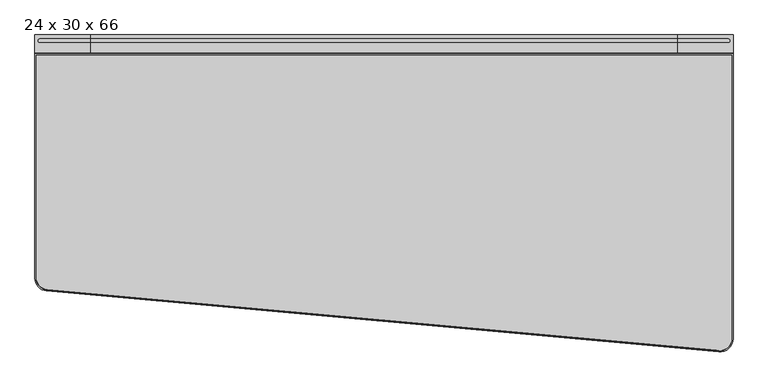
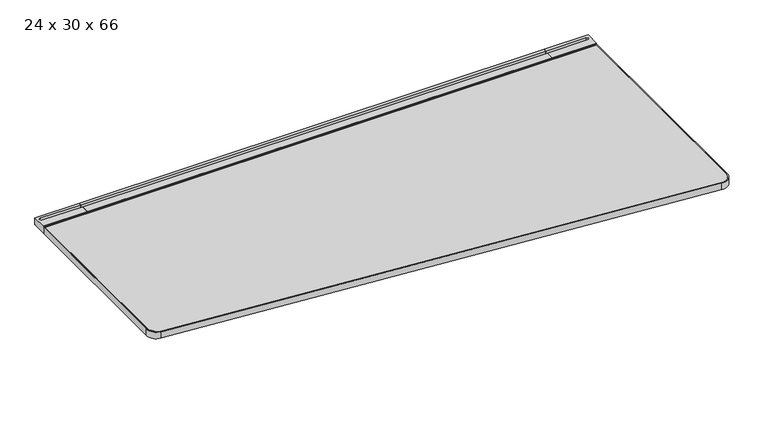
"""IFC4 building model written with IfcOpenShell, lengths in millimetres: furniture geometry, Steelcase - C Scape - Desking - Right Hand Tapered : 24 x 30 x 66."""

from ifc_helpers import new_model, si_unit, point, frame, frame_2d, origin, place, context, project, spatial, polyline, circle_curve, trimmed, segment, composite_curve, outline, extrude, faceted_brep, source, transform, mapped, element, save
from ifc_brep_helpers import plane_surface, cylinder_surface, revolved_surface, advanced_brep


def furniture_24_x_30_x_66_e956ec1d(model_context):
    return source(origin(), model_context, "Body", "SolidModel", [
        advanced_brep(
        [(1541.7927124, -45.3135132, 703.3768), (1541.7927124, -45.3135132, 722.4268341), (1541.7927124, -42.7750923, 722.4268341), (1541.7927124, -42.7750923, 725.932), (1541.7927124, -19.3290527, 725.932), (1541.7927124, -19.3290527, 713.486), (1541.7927124, -8.5111084, 713.486), (1541.7927124, -8.5111084, 725.932), (1541.7927124, 0.0, 725.932), (1541.7927124, 0.0, 705.1038636), (1541.7927124, -3.2278472, 705.1038636), (1541.7927124, -4.0331902, 703.3768), (1674.8125, -45.3135132, 703.3768), (1674.8125, -4.0331902, 703.3768), (1674.8125, -3.2278472, 705.1038636), (1674.8125, 0.0, 705.1038636), (1674.8125, 0.0, 725.932), (1674.8125, -42.7750923, 725.932), (1674.8125, -42.7750923, 722.4268341), (1674.8125, -45.3135132, 722.4268341), (1663.0504272, -8.5111084, 725.932), (1663.0504272, -19.3290527, 725.932), (1663.0504272, -19.3290527, 713.486), (1663.0504272, -8.5111084, 713.486)],
        [
            (0, 1),
            (1, 2),
            (2, 3),
            (3, 4),
            (4, 5),
            (5, 6),
            (6, 7),
            (7, 8),
            (8, 9),
            (9, 10),
            (10, 11),
            (11, 0),
            (12, 13),
            (13, 14),
            (14, 15),
            (15, 16),
            (16, 17),
            (17, 18),
            (18, 19),
            (19, 12),
            (11, 13),
            (12, 0),
            (10, 14),
            (9, 15),
            (8, 16),
            (7, 20),
            (20, 21, circle_curve(frame((1663.0504272, -13.9200806, 725.932), z_axis=(0.0, 0.0, -1.0), x_axis=(-1.0, 0.0, 0.0)), 5.4089722)),
            (21, 4),
            (3, 17),
            (2, 18),
            (1, 19),
            (5, 22),
            (22, 23, circle_curve(frame((1663.0504272, -13.9200806, 713.486), z_axis=(0.0, 0.0, 1.0), x_axis=(-1.0, 0.0, 0.0)), 5.4089722)),
            (23, 6),
            (23, 20),
            (22, 21),
        ],
        [
            plane_surface(frame((1541.7927124, -45.3135132, 703.3768), z_axis=(-1.0, 0.0, 0.0), x_axis=(0.0, 1.0, 0.0))),
            plane_surface(frame((1674.8125, -45.3135132, 703.3768), z_axis=(1.0, 0.0, 0.0), x_axis=(0.0, -1.0, 0.0))),
            plane_surface(frame((1541.7927124, -45.3135132, 703.3768), z_axis=(0.0, 0.0, -1.0), x_axis=(1.0, 0.0, 0.0))),
            plane_surface(frame((1541.7927124, -4.0331902, 703.3768), z_axis=(0.0, 0.9063077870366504, -0.4226182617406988), x_axis=(1.0, 0.0, 0.0))),
            plane_surface(frame((1541.7927124, -3.2278472, 705.1038636), z_axis=(0.0, 0.0, -1.0), x_axis=(1.0, 0.0, 0.0))),
            plane_surface(frame((1541.7927124, 0.0, 705.1038636), z_axis=(0.0, 1.0, 0.0), x_axis=(1.0, 0.0, 0.0))),
            plane_surface(frame((1541.7927124, 0.0, 725.932), z_axis=(0.0, 0.0, 1.0), x_axis=(1.0, 0.0, 0.0))),
            plane_surface(frame((1541.7927124, -42.7750923, 725.932), z_axis=(0.0, -1.0, 0.0), x_axis=(1.0, 0.0, 0.0))),
            plane_surface(frame((1541.7927124, -42.7750923, 722.4268341), z_axis=(0.0, 0.0, 1.0), x_axis=(1.0, 0.0, 0.0))),
            plane_surface(frame((1541.7927124, -45.3135132, 722.4268341), z_axis=(0.0, -1.0, 0.0), x_axis=(1.0, 0.0, 0.0))),
            plane_surface(frame((1663.0504272, -8.5111084, 713.486), z_axis=(0.0, 0.0, 1.0), x_axis=(-1.0, 0.0, 0.0))),
            plane_surface(frame((1541.7927124, -8.5111084, 731.2180541), z_axis=(0.0, -1.0, 0.0), x_axis=(0.0, 0.0, -1.0))),
            revolved_surface(polyline([(1657.641455, -13.9200806, 725.932), (1657.641455, -13.9200806, 713.486)]), (1663.0504272, -13.9200806, 713.486), (0.0, 0.0, 1.0)),
            plane_surface(frame((1663.0504272, -19.3290527, 731.2180541), z_axis=(0.0, 1.0, 0.0), x_axis=(0.0, 0.0, -1.0))),
        ],
        [
            (0, [[1, 2, 3, 4, 5, 6, 7, 8, 9, 10, 11, 12]]),
            (1, [[13, 14, 15, 16, 17, 18, 19, 20]]),
            (2, [[21, -13, 22, -12]]),
            (3, [[23, -14, -21, -11]]),
            (4, [[24, -15, -23, -10]]),
            (5, [[25, -16, -24, -9]]),
            (6, [[-25, -8, 26, 27, 28, -4, 29, -17]]),
            (7, [[30, -18, -29, -3]]),
            (8, [[31, -19, -30, -2]]),
            (9, [[-22, -20, -31, -1]]),
            (10, [[-6, 32, 33, 34]]),
            (11, [[35, -26, -7, -34]]),
            (12, [[36, -27, -35, -33]]),
            (13, [[-5, -28, -36, -32]]),
        ],
    ),
        faceted_brep([(1655.7617368, -565.0752923, 700.7093833), (1655.7617368, -565.0752923, 703.3768), (1541.7927124, -565.0752923, 703.3768), (1541.7927124, -565.0752923, 679.3263935), (1557.4268699, -565.0752923, 679.3263935), (1560.0474121, -565.0752923, 693.4200291), (1641.4866272, -565.0752923, 693.4200291), (1655.7617368, -4.0331902, 700.7093833), (1641.4866272, -4.0331902, 693.4200291), (1560.0474121, -4.0331902, 693.4200291), (1548.1411653, -4.0331902, 629.3866), (1541.7927124, -4.0331902, 629.3866), (1541.7927124, -4.0331902, 703.3768), (1655.7617368, -4.0331902, 703.3768), (1555.2615949, -376.5599397, 667.6812472), (1548.1411653, -364.1172546, 629.3866), (1541.7927124, -364.1172546, 629.3866), (1541.7927124, -376.5599397, 667.6812472)], [[[0, 1, 2, 3, 4, 5, 6]], [[7, 8, 9, 10, 11, 12, 13]], [[6, 8, 7, 0]], [[5, 9, 8, 6]], [[9, 5, 4, 14, 15, 10]], [[10, 15, 16, 11]], [[11, 16, 17, 3, 2, 12]], [[1, 13, 12, 2]], [[0, 7, 13, 1]], [[14, 4, 3, 17]], [[17, 16, 15, 14]]]),
        extrude(outline(composite_curve([segment(polyline([(-293.5216187, 657.3775839), (-559.0022133, 680.1371551)]), True, "CONTINUOUS"), segment(trimmed(circle_curve(frame_2d((-558.7581271, 682.9843154)), 2.8576039), [point((-559.0022133, 680.1371551))], [point((-561.5383043, 682.3236226))], False, "CARTESIAN"), True, "CONTINUOUS"), segment(polyline([(-561.5383043, 682.3236226), (-566.0887542, 701.4717905), (-557.8334441, 701.4717905), (-557.8334441, 703.3768), (-442.6683806, 703.3768), (-442.6683806, 696.3917953), (-318.2108611, 696.3917953), (-318.2108611, 703.3768), (-293.5216187, 703.3768), (-293.5216187, 657.3775839)]), True, "CONTINUOUS")], self_intersect=False)), frame((801.624, 0.0, 0.0), z_axis=(1.0, 0.0, 0.0), x_axis=(0.0, 1.0, 0.0)), (0.0, 0.0, 1.0), 73.152),
        advanced_brep(
        [(134.6072876, -45.3135132, 703.3768), (134.6072876, -4.0331902, 703.3768), (134.6072876, -3.2278472, 705.1038636), (134.6072876, 0.0, 705.1038636), (134.6072876, 0.0, 725.932), (134.6072876, -8.5111084, 725.932), (134.6072876, -8.5111084, 713.486), (134.6072876, -19.3290527, 713.486), (134.6072876, -19.3290527, 725.932), (134.6072876, -42.7750923, 725.932), (134.6072876, -42.7750923, 722.4268341), (134.6072876, -45.3135132, 722.4268341), (1.5875, -45.3135132, 703.3768), (1.5875, -45.3135132, 722.4268341), (1.5875, -42.7750923, 722.4268341), (1.5875, -42.7750923, 725.932), (1.5875, 0.0, 725.932), (1.5875, 0.0, 705.1038636), (1.5875, -3.2278472, 705.1038636), (1.5875, -4.0331902, 703.3768), (13.3495728, -19.3290527, 725.932), (13.3495728, -8.5111084, 725.932), (13.3495728, -8.5111084, 713.486), (13.3495728, -19.3290527, 713.486)],
        [
            (0, 1),
            (1, 2),
            (2, 3),
            (3, 4),
            (4, 5),
            (5, 6),
            (6, 7),
            (7, 8),
            (8, 9),
            (9, 10),
            (10, 11),
            (11, 0),
            (12, 13),
            (13, 14),
            (14, 15),
            (15, 16),
            (16, 17),
            (17, 18),
            (18, 19),
            (19, 12),
            (0, 12),
            (19, 1),
            (18, 2),
            (17, 3),
            (16, 4),
            (15, 9),
            (8, 20),
            (20, 21, circle_curve(frame((13.3495728, -13.9200806, 725.932), z_axis=(0.0, 0.0, -1.0), x_axis=(1.0, 0.0, 0.0)), 5.4089722)),
            (21, 5),
            (14, 10),
            (13, 11),
            (6, 22),
            (22, 23, circle_curve(frame((13.3495728, -13.9200806, 713.486), z_axis=(0.0, 0.0, 1.0), x_axis=(1.0, 0.0, 0.0)), 5.4089722)),
            (23, 7),
            (21, 22),
            (20, 23),
        ],
        [
            plane_surface(frame((134.6072876, -45.3135132, 703.3768), z_axis=(1.0, 0.0, 0.0), x_axis=(0.0, 1.0, 0.0))),
            plane_surface(frame((1.5875, -45.3135132, 703.3768), z_axis=(-1.0, 0.0, 0.0), x_axis=(0.0, -1.0, 0.0))),
            plane_surface(frame((134.6072876, -45.3135132, 703.3768), z_axis=(0.0, 0.0, -1.0), x_axis=(-1.0, 0.0, 0.0))),
            plane_surface(frame((134.6072876, -4.0331902, 703.3768), z_axis=(0.0, 0.9063077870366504, -0.4226182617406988), x_axis=(-1.0, 0.0, 0.0))),
            plane_surface(frame((134.6072876, -3.2278472, 705.1038636), z_axis=(0.0, 0.0, -1.0), x_axis=(-1.0, 0.0, 0.0))),
            plane_surface(frame((134.6072876, 0.0, 705.1038636), z_axis=(0.0, 1.0, 0.0), x_axis=(-1.0, 0.0, 0.0))),
            plane_surface(frame((134.6072876, 0.0, 725.932), z_axis=(0.0, 0.0, 1.0), x_axis=(-1.0, 0.0, 0.0))),
            plane_surface(frame((134.6072876, -42.7750923, 725.932), z_axis=(0.0, -1.0, 0.0), x_axis=(-1.0, 0.0, 0.0))),
            plane_surface(frame((134.6072876, -42.7750923, 722.4268341), z_axis=(0.0, 0.0, 1.0), x_axis=(-1.0, 0.0, 0.0))),
            plane_surface(frame((134.6072876, -45.3135132, 722.4268341), z_axis=(0.0, -1.0, 0.0), x_axis=(-1.0, 0.0, 0.0))),
            plane_surface(frame((13.3495728, -8.5111084, 713.486), z_axis=(0.0, 0.0, 1.0), x_axis=(1.0, 0.0, 0.0))),
            plane_surface(frame((134.6072876, -8.5111084, 731.2180541), z_axis=(0.0, -1.0, 0.0), x_axis=(0.0, 0.0, -1.0))),
            revolved_surface(polyline([(18.758545, -13.9200806, 725.932), (18.758545, -13.9200806, 713.486)]), (13.3495728, -13.9200806, 713.486), (0.0, 0.0, 1.0)),
            plane_surface(frame((13.3495728, -19.3290527, 731.2180541), z_axis=(0.0, 1.0, 0.0), x_axis=(0.0, 0.0, -1.0))),
        ],
        [
            (0, [[1, 2, 3, 4, 5, 6, 7, 8, 9, 10, 11, 12]]),
            (1, [[13, 14, 15, 16, 17, 18, 19, 20]]),
            (2, [[-1, 21, -20, 22]]),
            (3, [[-2, -22, -19, 23]]),
            (4, [[-3, -23, -18, 24]]),
            (5, [[-4, -24, -17, 25]]),
            (6, [[-16, 26, -9, 27, 28, 29, -5, -25]]),
            (7, [[-10, -26, -15, 30]]),
            (8, [[-11, -30, -14, 31]]),
            (9, [[-12, -31, -13, -21]]),
            (10, [[32, 33, 34, -7]]),
            (11, [[-32, -6, -29, 35]]),
            (12, [[-33, -35, -28, 36]]),
            (13, [[-34, -36, -27, -8]]),
        ],
    ),
        faceted_brep([(20.6382632, -565.0752923, 700.7093833), (34.9133728, -565.0752923, 693.4200291), (116.3525879, -565.0752923, 693.4200291), (118.9731301, -565.0752923, 679.3263935), (134.6072876, -565.0752923, 679.3263935), (134.6072876, -565.0752923, 703.3768), (20.6382632, -565.0752923, 703.3768), (20.6382632, -4.0331902, 700.7093833), (20.6382632, -4.0331902, 703.3768), (134.6072876, -4.0331902, 703.3768), (134.6072876, -4.0331902, 629.3866), (128.2588347, -4.0331902, 629.3866), (116.3525879, -4.0331902, 693.4200291), (34.9133728, -4.0331902, 693.4200291), (128.2588347, -364.1172546, 629.3866), (121.1384051, -376.5599397, 667.6812472), (134.6072876, -364.1172546, 629.3866), (134.6072876, -376.5599397, 667.6812472)], [[[0, 1, 2, 3, 4, 5, 6]], [[7, 8, 9, 10, 11, 12, 13]], [[1, 0, 7, 13]], [[2, 1, 13, 12]], [[12, 11, 14, 15, 3, 2]], [[11, 10, 16, 14]], [[10, 9, 5, 4, 17, 16]], [[6, 5, 9, 8]], [[0, 6, 8, 7]], [[15, 17, 4, 3]], [[17, 15, 14, 16]]]),
        extrude(outline(polyline([(-8.5111084, 725.932), (0.0, 725.932), (0.0, 705.1038636), (-3.2278472, 705.1038636), (-4.0331902, 703.3768), (-45.3135132, 703.3768), (-45.3135132, 722.4268341), (-42.7750923, 722.4268341), (-42.7750923, 725.932), (-19.3290527, 725.932), (-19.3290527, 713.486), (-8.5111084, 713.486), (-8.5111084, 725.932)])), frame((134.6072876, 0.0, 0.0), z_axis=(1.0, 0.0, 0.0), x_axis=(0.0, 1.0, 0.0)), (0.0, 0.0, 1.0), 1407.1854248),
        extrude(outline(polyline([(134.6072876, -293.5216187), (134.6072876, -4.0331902), (1541.7927124, -4.0331902), (1541.7927124, -293.5216187), (134.6072876, -293.5216187)])), frame((0.0, 0.0, 629.3866), z_axis=(0.0, 0.0, 1.0), x_axis=(1.0, 0.0, 0.0)), (0.0, 0.0, 1.0), 73.9902),
        extrude(outline(composite_curve([segment(polyline([(4.6355, -48.3660689), (1671.7645, -48.3660689), (1671.7645, -727.4584074)]), True, "CONTINUOUS"), segment(trimmed(circle_curve(frame_2d((1642.3399152, -727.4584074)), 29.4245848), [point((1671.7645, -727.4584074))], [point((1635.1992261, -756.0034025))], False, "CARTESIAN"), True, "CONTINUOUS"), segment(polyline([(1635.1992261, -756.0034025), (32.0559121, -610.6253514)]), True, "CONTINUOUS"), segment(trimmed(circle_curve(frame_2d((35.0928094, -580.3198247)), 30.4573094), [point((32.0559121, -610.6253514))], [point((4.6355, -580.3198247))], False, "CARTESIAN"), True, "CONTINUOUS"), segment(polyline([(4.6355, -580.3198247), (4.6355, -48.3660689)]), True, "CONTINUOUS")], self_intersect=False)), frame((0.0, 0.0, 703.3768), z_axis=(0.0, 0.0, 1.0), x_axis=(1.0, 0.0, 0.0)), (0.0, 0.0, 1.0), 20.5232),
        advanced_brep(
        [(1674.8125, -45.3150923, 703.3768), (1674.8125, -45.3150923, 723.9), (1674.8125, -727.9415979, 723.9), (1674.8125, -727.9415979, 703.3768), (1671.7615234, -48.3660689, 723.9), (1671.7615234, -48.3660689, 703.3768), (1671.7615234, -727.9415979, 703.3768), (1671.7615234, -727.9415979, 723.9), (1640.0527611, -759.548622, 703.3768), (1640.0527611, -759.548622, 723.9), (1640.3419782, -756.5113845, 723.9), (1640.3419782, -756.5113845, 703.3768), (28.8741289, -613.3822243, 723.9), (28.8741289, -613.3822243, 703.3768), (29.149782, -610.3437258, 703.3768), (29.149782, -610.3437258, 723.9), (1.5875, -583.3738283, 723.9), (1.5875, -45.3150923, 723.9), (4.6384766, -583.3738283, 723.9), (4.6384766, -48.3660689, 723.9), (1.5875, -583.3738283, 703.3768), (1.5875, -45.3150923, 703.3768), (4.6384766, -583.3738283, 703.3768), (4.6384766, -48.3660689, 703.3768)],
        [
            (0, 1),
            (1, 2),
            (2, 3),
            (3, 0),
            (4, 5),
            (5, 6),
            (6, 7),
            (7, 4),
            (8, 3, circle_curve(frame((1643.0625, -727.9415979, 703.3768), z_axis=(0.0, 0.0, 1.0), x_axis=(1.0, 0.0, 0.0)), 31.75)),
            (2, 9, circle_curve(frame((1643.0625, -727.9415979, 723.9), z_axis=(0.0, 0.0, -1.0), x_axis=(1.0, 0.0, 0.0)), 31.75)),
            (9, 8),
            (10, 7, circle_curve(frame((1643.0625, -727.9415979, 723.9), z_axis=(0.0, 0.0, 1.0), x_axis=(1.0, 0.0, 0.0)), 28.6990234)),
            (6, 11, circle_curve(frame((1643.0625, -727.9415979, 703.3768), z_axis=(0.0, 0.0, -1.0), x_axis=(1.0, 0.0, 0.0)), 28.6990234)),
            (11, 10),
            (9, 12),
            (12, 13),
            (13, 8),
            (11, 14),
            (14, 15),
            (15, 10),
            (16, 12, circle_curve(frame((31.7316405, -583.3738283, 723.9), z_axis=(0.0, 0.0, 1.0), x_axis=(-0.09479492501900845, -0.9954968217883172, 0.0)), 30.1441405)),
            (1, 17),
            (17, 16),
            (15, 18, circle_curve(frame((31.7316405, -583.3738283, 723.9), z_axis=(0.0, 0.0, -1.0), x_axis=(-0.09479492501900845, -0.9954968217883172, 0.0)), 27.0931639)),
            (18, 19),
            (19, 4),
            (20, 13, circle_curve(frame((31.7316405, -583.3738283, 703.3768), z_axis=(0.0, 0.0, 1.0), x_axis=(-0.09479492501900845, -0.9954968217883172, 0.0)), 30.1441405)),
            (16, 20),
            (20, 21),
            (21, 0),
            (22, 14, circle_curve(frame((31.7316405, -583.3738283, 703.3768), z_axis=(0.0, 0.0, 1.0), x_axis=(-0.09479492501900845, -0.9954968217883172, 0.0)), 27.0931639)),
            (5, 23),
            (23, 22),
            (22, 18),
            (17, 21),
            (23, 19),
        ],
        [
            plane_surface(frame((1674.8125, -45.3150923, 723.9), z_axis=(1.0, 0.0, 0.0), x_axis=(0.0, -1.0, 0.0))),
            plane_surface(frame((1671.7615234, -48.3660689, 703.3768), z_axis=(-1.0, 0.0, 0.0), x_axis=(0.0, -1.0, 0.0))),
            cylinder_surface(frame((1643.0625, -727.9415979, 0.0), z_axis=(0.0, 0.0, -1.0), x_axis=(1.0, 0.0, 0.0)), 31.75),
            revolved_surface(polyline([(1671.7615234, -727.9415979, 703.3768), (1671.7615234, -727.9415979, 723.9)]), (1643.0625, -727.9415979, 0.0), (0.0, 0.0, -1.0)),
            plane_surface(frame((1640.0527611, -759.548622, 723.9), z_axis=(-0.09034913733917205, -0.9959101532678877, 0.0), x_axis=(-0.9959101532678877, 0.09034913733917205, 0.0))),
            plane_surface(frame((1640.3419811, -756.5113542, 703.3768), z_axis=(0.090349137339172, 0.9959101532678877, 0.0), x_axis=(-0.9959101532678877, 0.090349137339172, 0.0))),
            plane_surface(frame((31.7316405, -583.3738283, 723.9), z_axis=(0.0, 0.0, 1.0), x_axis=(-0.09479492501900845, -0.9954968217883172, 0.0))),
            cylinder_surface(frame((31.7316405, -583.3738283, 0.0), z_axis=(0.0, 0.0, -1.0), x_axis=(-0.09479492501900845, -0.9954968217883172, 0.0)), 30.1441405),
            plane_surface(frame((31.7316405, -583.3738283, 703.3768), z_axis=(0.0, 0.0, -1.0), x_axis=(-0.09479492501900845, -0.9954968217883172, 0.0))),
            revolved_surface(polyline([(29.163346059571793, -610.34498685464, 703.3768), (29.163346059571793, -610.34498685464, 723.9)]), (31.7316405, -583.3738283, 0.0), (0.0, 0.0, -1.0)),
            plane_surface(frame((1.5875, -583.3738283, 723.9), z_axis=(-1.0, 0.0, 0.0), x_axis=(0.0, 1.0, 0.0))),
            plane_surface(frame((4.6384766, -583.3738283, 703.3768), z_axis=(1.0, 0.0, 0.0), x_axis=(0.0, 1.0, 0.0))),
            plane_surface(frame((1.5875, -45.3150923, 723.9), z_axis=(0.0, 1.0, 0.0), x_axis=(1.0, 0.0, 0.0))),
            plane_surface(frame((4.6384766, -48.3660689, 703.3768), z_axis=(0.0, -1.0, 0.0), x_axis=(1.0, 0.0, 0.0))),
        ],
        [
            (0, [[1, 2, 3, 4]]),
            (1, [[5, 6, 7, 8]]),
            (2, [[9, -3, 10, 11]]),
            (3, [[12, -7, 13, 14]]),
            (4, [[-11, 15, 16, 17]]),
            (5, [[-14, 18, 19, 20]]),
            (6, [[21, -15, -10, -2, 22, 23], [-8, -12, -20, 24, 25, 26]]),
            (7, [[27, -16, -21, 28]]),
            (8, [[-4, -9, -17, -27, 29, 30], [31, -18, -13, -6, 32, 33]]),
            (9, [[-24, -19, -31, 34]]),
            (10, [[-28, -23, 35, -29]]),
            (11, [[-34, -33, 36, -25]]),
            (12, [[-35, -22, -1, -30]]),
            (13, [[-36, -32, -5, -26]]),
        ],
    ),
    ])


if __name__ == "__main__":
    model = new_model("IFC4")
    model_context = context("Model", 3, world=origin())
    ifc_project = project(units=[si_unit("LENGTHUNIT", "METRE", prefix="MILLI")], contexts=[model_context])
    site = spatial("IfcSite", under=ifc_project)
    building = spatial("IfcBuilding", under=site)
    placement = place(None, origin())
    furniture_24_x_30_x_66_shape = furniture_24_x_30_x_66_e956ec1d(model_context)
    element("IfcFurniture", 1, ObjectType="Steelcase - C Scape - Desking - Right Hand Tapered : 24 x 30 x 66", at=placement, inside=building, context=model_context, shape_type="MappedRepresentation", body=[
        mapped(furniture_24_x_30_x_66_shape, transform((0.0, 0.0, 0.0), x_axis=(1.0, 0.0, 0.0), y_axis=(0.0, 1.0, 0.0), z_axis=(0.0, 0.0, 1.0))),
    ])
    save(model, "model.ifc")
